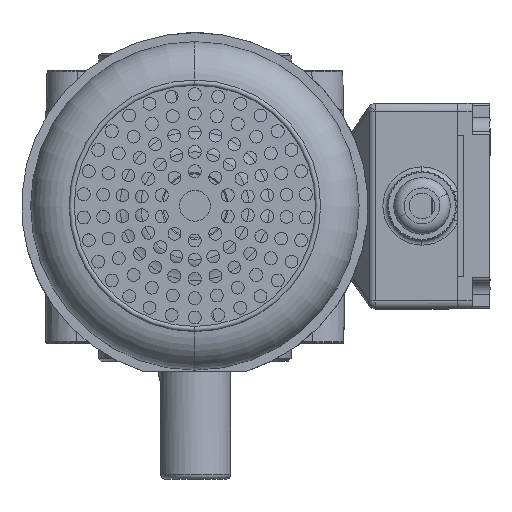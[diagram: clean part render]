
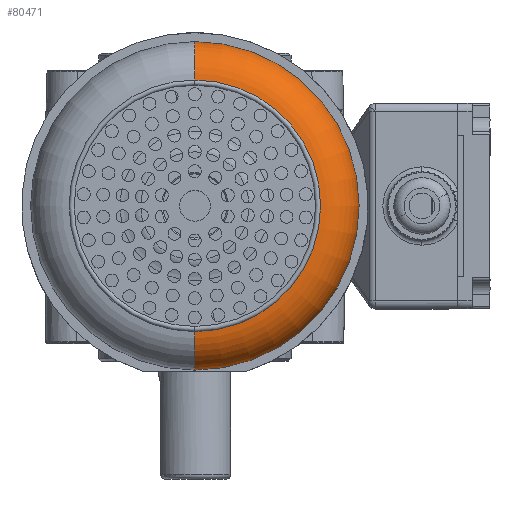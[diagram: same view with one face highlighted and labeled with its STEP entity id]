
A CAD part, top view. The second image highlights one B-rep face of the part: STEP entity #80471.
In plain terms, the highlighted toroidal (fillet/blend) face has major radius 48 mm and minor radius 16 mm.
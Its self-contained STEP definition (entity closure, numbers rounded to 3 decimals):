
#2470 = EDGE_CURVE ( 'NONE', #23316, #8133, #11147, .T. ) ;
#6319 = EDGE_LOOP ( 'NONE', ( #16067, #14387, #39055, #44984 ) ) ;
#8133 = VERTEX_POINT ( 'NONE', #54425 ) ;
#11147 = CIRCLE ( 'NONE', #31278, 16. ) ;
#14387 = ORIENTED_EDGE ( 'NONE', *, *, #62321, .T. ) ;
#14652 = CARTESIAN_POINT ( 'NONE',  ( -21.792, 258.009, 155.768 ) ) ;
#16067 = ORIENTED_EDGE ( 'NONE', *, *, #20517, .F. ) ;
#16833 = DIRECTION ( 'NONE',  ( 0.017, 0., 1. ) ) ;
#18268 = TOROIDAL_SURFACE ( 'NONE', #56863, 48., 16. ) ;
#20517 = EDGE_CURVE ( 'NONE', #86521, #23316, #73330, .T. ) ;
#23316 = VERTEX_POINT ( 'NONE', #44026 ) ;
#25345 = FACE_OUTER_BOUND ( 'NONE', #6319, .T. ) ;
#26168 = DIRECTION ( 'NONE',  ( 0., -1., 0. ) ) ;
#26640 = CARTESIAN_POINT ( 'NONE',  ( -21.792, 242.041, 155.768 ) ) ;
#31278 = AXIS2_PLACEMENT_3D ( 'NONE', #59141, #42699, #72253 ) ;
#31699 = CIRCLE ( 'NONE', #36352, 16. ) ;
#31913 = AXIS2_PLACEMENT_3D ( 'NONE', #26640, #26168, #55647 ) ;
#33115 = DIRECTION ( 'NONE',  ( 0., -1., 0. ) ) ;
#36352 = AXIS2_PLACEMENT_3D ( 'NONE', #90394, #16833, #75860 ) ;
#39055 = ORIENTED_EDGE ( 'NONE', *, *, #50249, .F. ) ;
#40346 = CARTESIAN_POINT ( 'NONE',  ( -21.792, 242.041, 155.768 ) ) ;
#42699 = DIRECTION ( 'NONE',  ( -0.017, 0., -1. ) ) ;
#44026 = CARTESIAN_POINT ( 'NONE',  ( 27.2, 258.009, 154.913 ) ) ;
#44176 = DIRECTION ( 'NONE',  ( 0., 1., 0. ) ) ;
#44984 = ORIENTED_EDGE ( 'NONE', *, *, #2470, .F. ) ;
#50249 = EDGE_CURVE ( 'NONE', #8133, #69205, #70585, .T. ) ;
#54425 = CARTESIAN_POINT ( 'NONE',  ( 42.198, 242.041, 154.651 ) ) ;
#55647 = DIRECTION ( 'NONE',  ( 1., 0., -0.017 ) ) ;
#56863 = AXIS2_PLACEMENT_3D ( 'NONE', #40346, #33115, #62580 ) ;
#59141 = CARTESIAN_POINT ( 'NONE',  ( 26.2, 242.041, 154.93 ) ) ;
#59421 = AXIS2_PLACEMENT_3D ( 'NONE', #14652, #44176, #65480 ) ;
#62321 = EDGE_CURVE ( 'NONE', #86521, #69205, #31699, .T. ) ;
#62580 = DIRECTION ( 'NONE',  ( 1., 0., -0.017 ) ) ;
#65480 = DIRECTION ( 'NONE',  ( -1., 0., 0.017 ) ) ;
#69205 = VERTEX_POINT ( 'NONE', #89442 ) ;
#70585 = CIRCLE ( 'NONE', #31913, 64. ) ;
#72253 = DIRECTION ( 'NONE',  ( 0., -1., 0. ) ) ;
#73330 = CIRCLE ( 'NONE', #59421, 49. ) ;
#74242 = CARTESIAN_POINT ( 'NONE',  ( -70.784, 258.009, 156.623 ) ) ;
#75860 = DIRECTION ( 'NONE',  ( 1., 0., -0.017 ) ) ;
#80471 = ADVANCED_FACE ( 'NONE', ( #25345 ), #18268, .T. ) ;
#86521 = VERTEX_POINT ( 'NONE', #74242 ) ;
#89442 = CARTESIAN_POINT ( 'NONE',  ( -85.783, 242.041, 156.885 ) ) ;
#90394 = CARTESIAN_POINT ( 'NONE',  ( -69.785, 242.041, 156.606 ) ) ;
